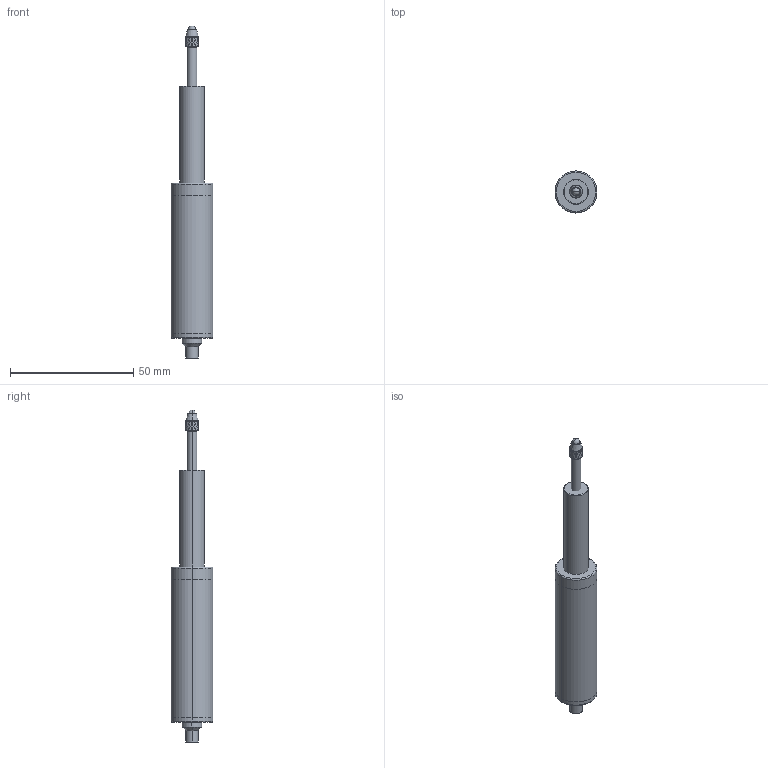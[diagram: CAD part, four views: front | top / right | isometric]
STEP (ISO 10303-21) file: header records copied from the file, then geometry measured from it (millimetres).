
FILE_DESCRIPTION (( 'STEP AP214' ), '1' );
FILE_NAME ('BYGTM-15mm-V1-DLY.STEP', '2026-04-01T03:35:21', ( '' ), ( '' ), 'SwSTEP 2.0', 'SolidWorks 2025', '' );
FILE_SCHEMA (( 'AUTOMOTIVE_DESIGN' ));
Length unit declared in the file: millimetre
Products named in the file (1): BYGTM-15mm-V1-DLY
Bounding box: 17 x 17 x 134.7 mm (x, y, z)
Volume: 18227.5 mm3; surface area: 7174 mm2
Topology: 7 solids, 7 shells, 354 faces, 766 edges, 424 vertices
Faces by surface type: bspline 240, cylinder 78, cone 14, plane 14, torus 6, sphere 2
Entity records: 11873 total; most frequent: CARTESIAN_POINT 6065, ORIENTED_EDGE 1520, EDGE_CURVE 760, B_SPLINE_CURVE_WITH_KNOTS 576, DIRECTION 518, VERTEX_POINT 422, EDGE_LOOP 358, FACE_OUTER_BOUND 354
